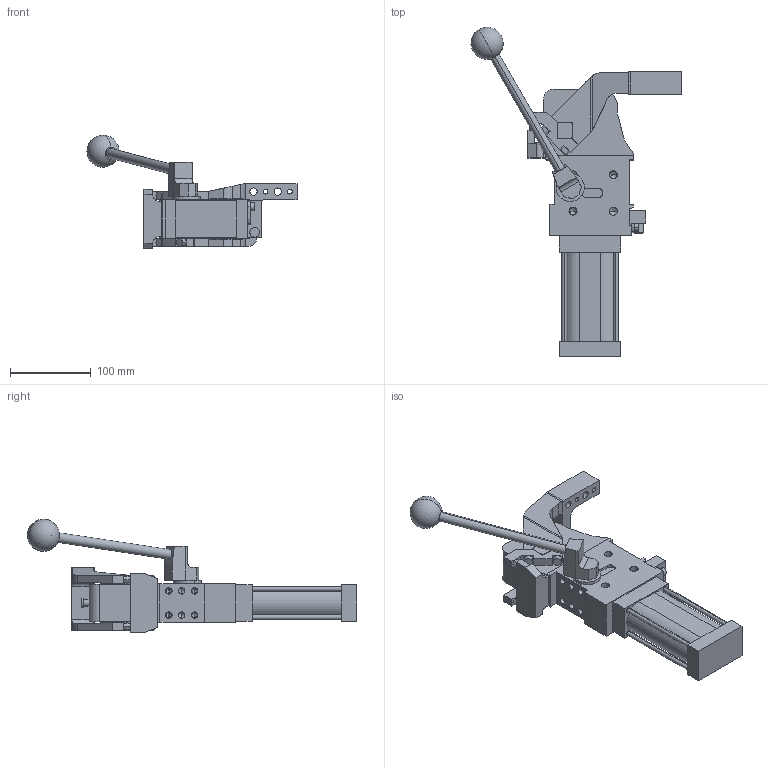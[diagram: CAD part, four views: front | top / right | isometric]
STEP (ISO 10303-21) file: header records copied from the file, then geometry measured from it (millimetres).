
FILE_DESCRIPTION (( 'STEP AP214' ), '1' );
FILE_NAME ('cplm50latv3ssi1g_26.STEP', '2023-01-26T14:05:03', ( '' ), ( '' ), 'SwSTEP 2.0', 'SolidWorks 2022', '' );
FILE_SCHEMA (( 'AUTOMOTIVE_DESIGN' ));
Length unit declared in the file: millimetre
Products named in the file (5): comando_manuale_cplm_50; meccanica_cplm_50_tassello_esterno; blocchetto_VEP_0; cplm50latv3ssi1g_26; leva_v3ss_cpl50t
Assembly tree (4 placements, depth 2):
  cplm50latv3ssi1g_26
    meccanica_cplm_50_tassello_esterno
    blocchetto_VEP_0
    leva_v3ss_cpl50t
    comando_manuale_cplm_50
Bounding box: 260.57 x 408.56 x 141 mm (x, y, z)
Volume: 1523891.4 mm3; surface area: 194396.9 mm2
Topology: 4 solids, 4 shells, 470 faces, 1219 edges, 765 vertices
Faces by surface type: plane 245, cylinder 173, cone 50, sphere 2
Entity records: 15621 total; most frequent: CARTESIAN_POINT 2510, DIRECTION 2469, ORIENTED_EDGE 2336, EDGE_CURVE 1168, AXIS2_PLACEMENT_3D 839, VECTOR 791, LINE 791, VERTEX_POINT 762
